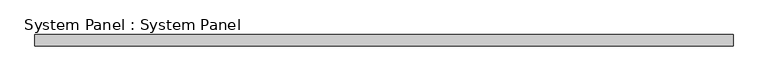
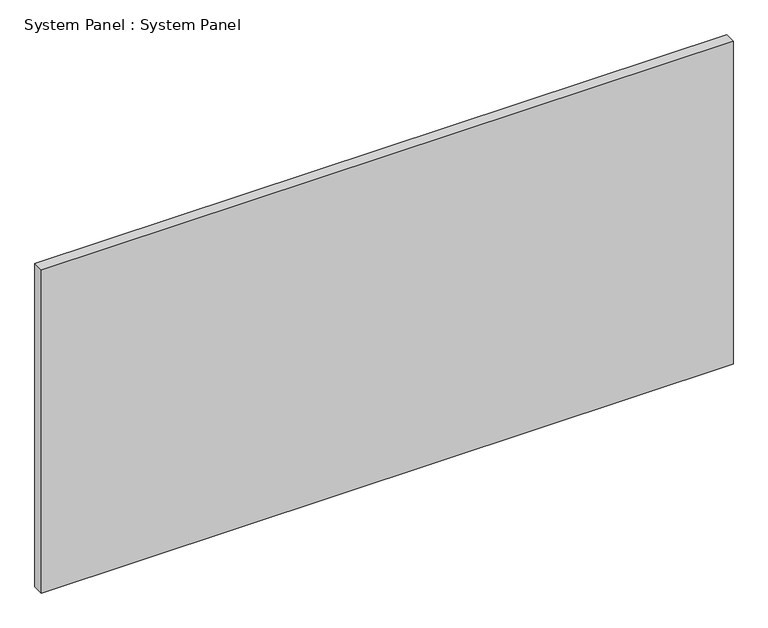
"""IFC4 building model written with IfcOpenShell, lengths in millimetres: plate geometry, System Panel : System Panel."""

from ifc_helpers import new_model, si_unit, origin, origin_with_axes, place, context, project, spatial, polyline, outline, extrude, source, transform, mapped, element, save


def system_panel_system_panel_f518bfc7(model_context):
    return source(origin(), model_context, "Body", "SweptSolid", [
        extrude(outline(polyline([(784.225, 19.05), (-784.225, 19.05), (-784.225, 44.45), (784.225, 44.45), (784.225, 19.05)])), origin_with_axes(), (0.0, 0.0, 1.0), 774.7),
    ])


if __name__ == "__main__":
    model = new_model("IFC4")
    model_context = context("Model", 3, world=origin())
    ifc_project = project(units=[si_unit("LENGTHUNIT", "METRE", prefix="MILLI")], contexts=[model_context])
    site = spatial("IfcSite", under=ifc_project)
    building = spatial("IfcBuilding", under=site)
    placement = place(None, origin())
    system_panel_system_panel_shape = system_panel_system_panel_f518bfc7(model_context)
    element("IfcPlate", 1, ObjectType="System Panel : System Panel", at=placement, inside=building, context=model_context, shape_type="MappedRepresentation", body=[
        mapped(system_panel_system_panel_shape, transform((0.0, 0.0, 0.0), x_axis=(1.0, 0.0, 0.0), y_axis=(0.0, 1.0, 0.0), z_axis=(0.0, 0.0, 1.0))),
    ])
    save(model, "model.ifc")
